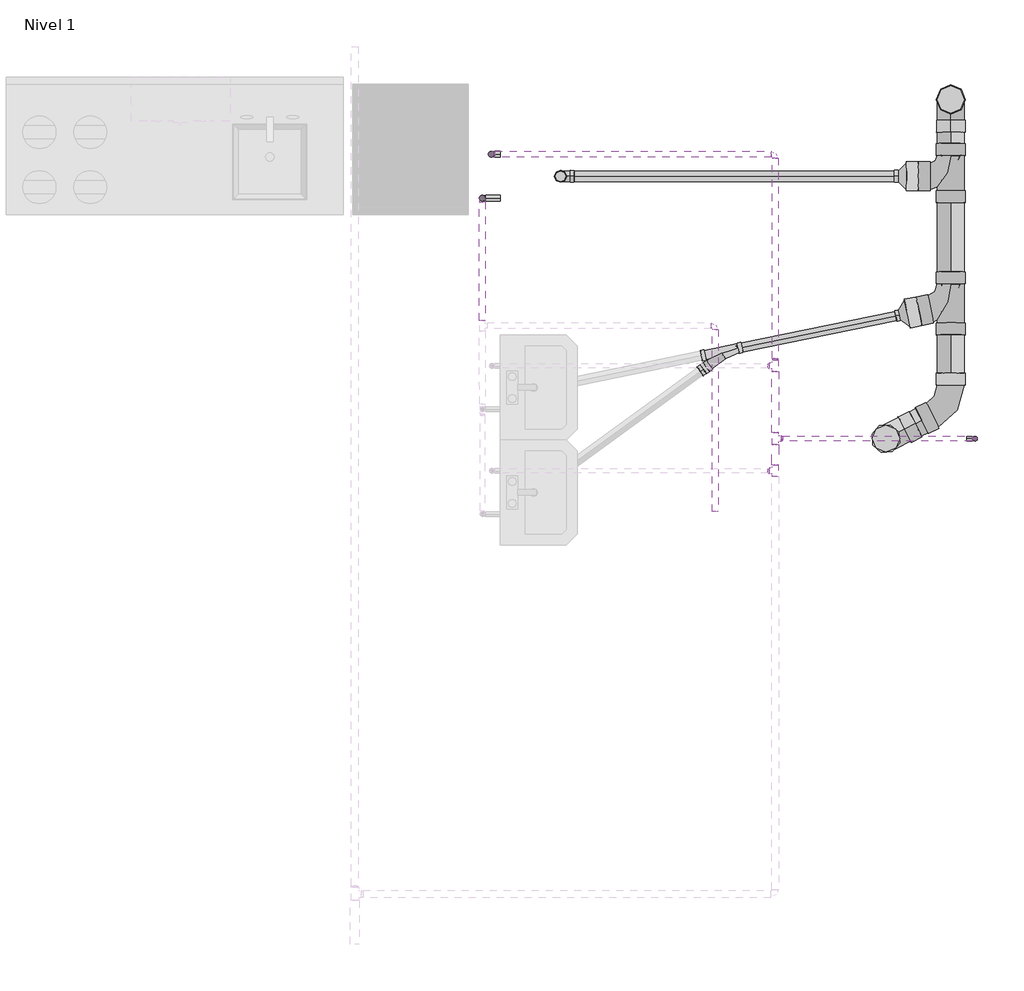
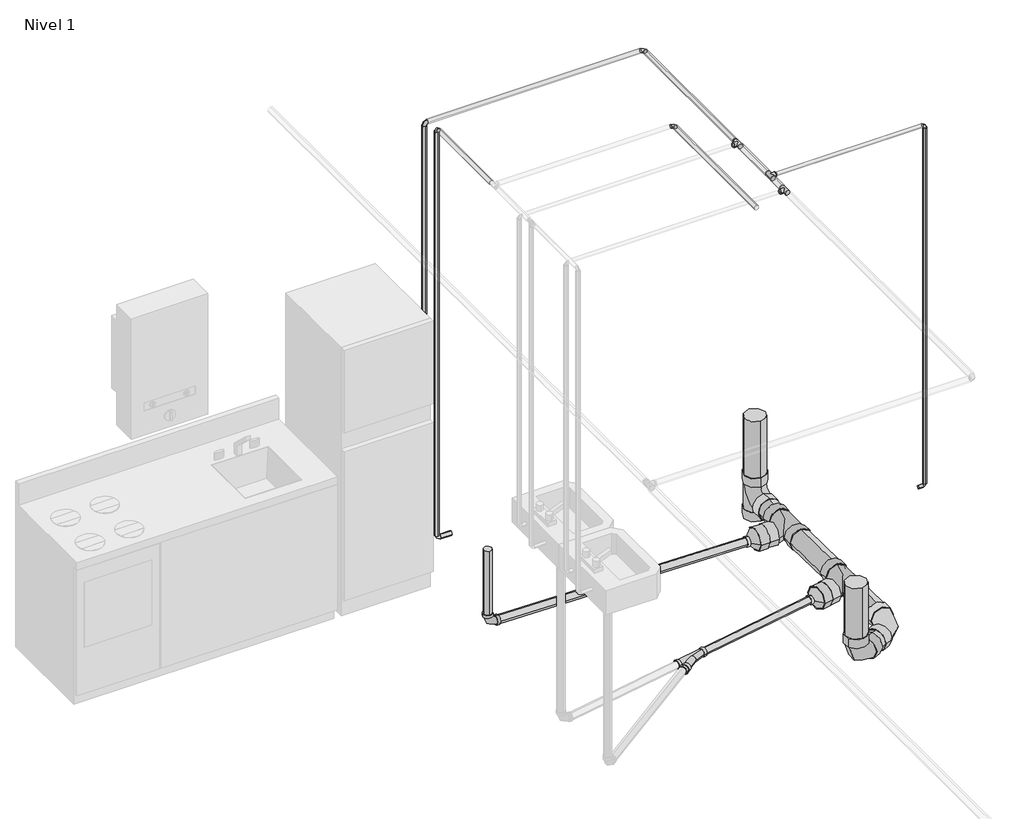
# One storey, part 2 of 2: 25 pipe fittings, 22 pipe segments.
"""IFC4 building model written with IfcOpenShell, lengths in millimetres."""

from ifc_helpers import new_model, si_unit, point, frame, frame_2d, origin, place, context, project, spatial, circle_curve, trimmed, segment, composite_curve, outline, extrude, transform, mapped, element, save
from components import pipe_fitting_d345b28c, pipe_fitting_a088f956, pipe_fitting_738589b0, pipe_fitting_19d9bb8b, pipe_fitting_0acd84b5, m_codo_pvc_serie_40_dwv_0d02a629, m_codo_pvc_serie_40_dwv_58af3277, m_codo_pvc_serie_40_dwv_8a6eaf4a, m_reductor_pvc_serie_40_dwv_9124daea, m_reductor_pvc_serie_40_dwv_3984a2b7, m_reductor_pvc_serie_40_dwv_3976a373, m_sanitario_con_te_pvc_serie_40_dwv_f73dd6a0, m_sanitario_con_te_pvc_serie_40_dwv_3fb9c0d5, m_sanitario_con_te_pvc_serie_40_dwv_6e09cb4e, m_sanitario_con_te_pvc_serie_40_dwv_3bcfd35b

model = new_model("IFC4")

# Units and contexts
model_context = context("Model", 3, world=origin())
ifc_project = project(units=[si_unit("LENGTHUNIT", "METRE", prefix="MILLI")], contexts=[model_context])

# Site, building, storey
site = spatial("IfcSite", under=ifc_project)
building = spatial("IfcBuilding", under=site)
storey = spatial("IfcBuildingStorey", under=building, Name="Nivel 1", Elevation=200.0)

# Pipe fittings
placement = place(None, origin())
pipe_fitting_shape = pipe_fitting_d345b28c(model_context)
element("IfcPipeFitting", 1, ObjectType="M_Te - Genérica : Estándar", at=placement, inside=storey, context=model_context, shape_type="MappedRepresentation", body=[
    mapped(pipe_fitting_shape, transform((10500.0001888, 11086.9444303, 2950.0), x_axis=(0.0, -1.0, 0.0), y_axis=(1.0, 0.0, 0.0), z_axis=(0.0, 0.0, 1.0))),
])
element("IfcPipeFitting", 2, ObjectType="M_Te - Genérica : Estándar", at=placement, inside=storey, context=model_context, shape_type="MappedRepresentation", body=[
    mapped(pipe_fitting_shape, transform((10500.0001888, 11235.8120225, 2950.0), x_axis=(0.0, -1.0, 0.0), y_axis=(-1.0, 0.0, 0.0), z_axis=(0.0, 0.0, -1.0))),
])
element("IfcPipeFitting", 3, ObjectType="M_Te - Genérica : Estándar", at=placement, inside=storey, context=model_context, shape_type="MappedRepresentation", body=[
    mapped(pipe_fitting_shape, transform((10500.0001888, 11571.9444303, 2950.0), x_axis=(0.0, 1.0, 0.0), y_axis=(1.0, 0.0, 0.0), z_axis=(0.0, 0.0, -1.0))),
])
pipe_fitting_2_shape = pipe_fitting_a088f956(model_context)
element("IfcPipeFitting", 4, ObjectType="M_Codo - Genérico : Estándar", at=placement, inside=storey, context=model_context, shape_type="MappedRepresentation", body=[
    mapped(pipe_fitting_2_shape, transform((11423.8124898, 11235.8120225, 669.9432082), x_axis=(1.0, 0.0, 0.0), y_axis=(0.0, 0.0, 1.0), z_axis=(0.0, -1.0, 0.0))),
])
element("IfcPipeFitting", 5, ObjectType="M_Codo - Genérico : Estándar", at=placement, inside=storey, context=model_context, shape_type="MappedRepresentation", body=[
    mapped(pipe_fitting_2_shape, transform((11423.8124898, 11235.8120225, 2950.0), x_axis=(0.0, 0.0, 1.0), y_axis=(-1.0, 0.0, 0.0), z_axis=(0.0, -1.0, 0.0))),
])
pipe_fitting_3_shape = pipe_fitting_738589b0(model_context)
element("IfcPipeFitting", 6, ObjectType="M_Codo - Genérico : Estándar", at=placement, inside=storey, context=model_context, shape_type="MappedRepresentation", body=[
    mapped(pipe_fitting_3_shape, transform((9187.1375102, 12550.6177396, 460.35), x_axis=(-1.0, 0.0, 0.0), y_axis=(0.0, 0.0, 1.0), z_axis=(0.0, 1.0, 0.0))),
])
element("IfcPipeFitting", 7, ObjectType="M_Codo - Genérico : Estándar", at=placement, inside=storey, context=model_context, shape_type="MappedRepresentation", body=[
    mapped(pipe_fitting_3_shape, transform((9187.1375102, 12550.6177396, 2950.0), x_axis=(0.0, 0.0, 1.0), y_axis=(1.0, 0.0, 0.0), z_axis=(0.0, 1.0, 0.0))),
])
element("IfcPipeFitting", 8, ObjectType="M_Codo - Genérico : Estándar", at=placement, inside=storey, context=model_context, shape_type="MappedRepresentation", body=[
    mapped(pipe_fitting_3_shape, transform((10500.0001888, 12550.6177396, 2950.0), x_axis=(0.0, 1.0, 0.0), y_axis=(-1.0, 0.0, 0.0), z_axis=(0.0, 0.0, 1.0))),
])
element("IfcPipeFitting", 9, ObjectType="M_Codo - Genérico : Estándar", at=placement, inside=storey, context=model_context, shape_type="MappedRepresentation", body=[
    mapped(pipe_fitting_3_shape, transform((9145.3757675, 12347.4177396, 460.35), x_axis=(-1.0, 0.0, 0.0), y_axis=(0.0, 0.0, 1.0), z_axis=(0.0, 1.0, 0.0))),
])
element("IfcPipeFitting", 10, ObjectType="M_Codo - Genérico : Estándar", at=placement, inside=storey, context=model_context, shape_type="MappedRepresentation", body=[
    mapped(pipe_fitting_3_shape, transform((9145.3757675, 12347.4177396, 3050.0), x_axis=(0.0, 0.0, 1.0), y_axis=(0.0, -1.0, 0.0), z_axis=(1.0, 0.0, 0.0))),
])
element("IfcPipeFitting", 11, ObjectType="M_Codo - Genérico : Estándar", at=placement, inside=storey, context=model_context, shape_type="MappedRepresentation", body=[
    mapped(pipe_fitting_3_shape, transform((10222.3689852, 11757.7431378, 3050.0), x_axis=(0.0, 1.0, 0.0), y_axis=(-1.0, 0.0, 0.0), z_axis=(0.0, 0.0, 1.0))),
])
pipe_fitting_4_shape = pipe_fitting_19d9bb8b(model_context)
element("IfcPipeFitting", 12, ObjectType="M_Transición - Genérica : Estándar", at=placement, inside=storey, context=model_context, shape_type="MappedRepresentation", body=[
    mapped(pipe_fitting_4_shape, transform((10473.0126888, 11086.9444303, 2950.0), x_axis=(-1.0, 0.0, 0.0), y_axis=(0.0, -1.0, 0.0), z_axis=(0.0, 0.0, 1.0))),
])
element("IfcPipeFitting", 13, ObjectType="M_Transición - Genérica : Estándar", at=placement, inside=storey, context=model_context, shape_type="MappedRepresentation", body=[
    mapped(pipe_fitting_4_shape, transform((10526.9876888, 11235.8120225, 2950.0), x_axis=(1.0, 0.0, 0.0), y_axis=(0.0, 1.0, 0.0), z_axis=(0.0, 0.0, 1.0))),
])
element("IfcPipeFitting", 14, ObjectType="M_Transición - Genérica : Estándar", at=placement, inside=storey, context=model_context, shape_type="MappedRepresentation", body=[
    mapped(pipe_fitting_4_shape, transform((10473.0126888, 11571.9444303, 2950.0), x_axis=(-1.0, 0.0, 0.0), y_axis=(0.0, -1.0, 0.0), z_axis=(0.0, 0.0, 1.0))),
])
pipe_fitting_5_shape = pipe_fitting_0acd84b5(model_context)
element("IfcPipeFitting", 15, ObjectType="M_Transición - Genérica : Estándar", at=placement, inside=storey, context=model_context, shape_type="MappedRepresentation", body=[
    mapped(pipe_fitting_5_shape, transform((10500.0001888, 11606.0756803, 2950.0), x_axis=(0.0, -1.0, 0.0), y_axis=(1.0, 0.0, 0.0), z_axis=(0.0, 0.0, 1.0))),
])
m_codo_pvc_serie_40_dwv_shape = m_codo_pvc_serie_40_dwv_0d02a629(model_context)
element("IfcPipeFitting", 16, ObjectType="M_Codo - PVC - Serie 40 - DWV : Estándar", at=placement, inside=storey, context=model_context, shape_type="MappedRepresentation", body=[
    mapped(m_codo_pvc_serie_40_dwv_shape, transform((9507.8125, 12449.0177396, -265.0550886), x_axis=(0.0, 0.0, -1.0), y_axis=(1.0, 0.0, 0.0), z_axis=(0.0, -1.0, 0.0))),
])
m_codo_pvc_serie_40_dwv_2_shape = m_codo_pvc_serie_40_dwv_58af3277(model_context)
element("IfcPipeFitting", 17, ObjectType="M_Codo - PVC - Serie 40 - DWV : Estándar", at=placement, inside=storey, context=model_context, shape_type="MappedRepresentation", body=[
    mapped(m_codo_pvc_serie_40_dwv_2_shape, transform((11311.4630594, 11386.9426985, -279.886599), x_axis=(0.8926934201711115, 0.4498638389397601, -0.0268511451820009), y_axis=(-0.4502208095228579, 0.8928733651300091, -0.008853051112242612), z_axis=(0.0199920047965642, 0.01999200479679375, 0.9996002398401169))),
])
m_codo_pvc_serie_40_dwv_3_shape = m_codo_pvc_serie_40_dwv_8a6eaf4a(model_context)
element("IfcPipeFitting", 18, ObjectType="M_Codo - PVC - Serie 40 - DWV : Estándar", at=placement, inside=storey, context=model_context, shape_type="MappedRepresentation", body=[
    mapped(m_codo_pvc_serie_40_dwv_3_shape, transform((11011.459375, 11235.7588698, -270.8628487), x_axis=(0.0, 0.0, -1.0), y_axis=(0.8930154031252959, 0.45002609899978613, 0.0), z_axis=(0.45002609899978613, -0.8930154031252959, 0.0))),
])
m_reductor_pvc_serie_40_dwv_shape = m_reductor_pvc_serie_40_dwv_9124daea(model_context)
element("IfcPipeFitting", 19, ObjectType="M_Reductor - PVC - Serie 40 - DWV : Estándar", at=placement, inside=storey, context=model_context, shape_type="MappedRepresentation", body=[
    mapped(m_reductor_pvc_serie_40_dwv_shape, transform((11160.2792307, 12449.0177396, -298.1044232), x_axis=(-0.9998000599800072, 0.0, 0.019996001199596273), y_axis=(0.0003997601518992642, -0.9998001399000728, 0.019988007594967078), z_axis=(0.01999200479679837, 0.019992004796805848, 0.999600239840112))),
])
m_reductor_pvc_serie_40_dwv_2_shape = m_reductor_pvc_serie_40_dwv_3984a2b7(model_context)
element("IfcPipeFitting", 20, ObjectType="M_Reductor - PVC - Serie 40 - DWV : Estándar", at=placement, inside=storey, context=model_context, shape_type="MappedRepresentation", body=[
    mapped(m_reductor_pvc_serie_40_dwv_2_shape, transform((11163.3554544, 11825.1737231, -286.2960454), x_axis=(-0.9794565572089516, -0.20070156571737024, 0.01958913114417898), y_axis=(0.2010277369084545, -0.9794483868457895, 0.01639226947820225), z_axis=(0.01589658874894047, 0.019993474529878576, 0.9996737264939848))),
])
m_reductor_pvc_serie_40_dwv_3_shape = m_reductor_pvc_serie_40_dwv_3976a373(model_context)
element("IfcPipeFitting", 21, ObjectType="M_Reductor - PVC - Serie 40 - DWV : Estándar", at=placement, inside=storey, context=model_context, shape_type="MappedRepresentation", body=[
    mapped(m_reductor_pvc_serie_40_dwv_3_shape, transform((10181.3244736, 11567.3674739, -258.9838619), x_axis=(-0.8089253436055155, -0.5876887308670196, 0.01617850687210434), y_axis=(0.5875712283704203, -0.8090871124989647, -0.011751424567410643), z_axis=(0.019996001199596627, 0.0, 0.9998000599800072))),
])
m_sanitario_con_te_pvc_serie_40_dwv_shape = m_sanitario_con_te_pvc_serie_40_dwv_f73dd6a0(model_context)
element("IfcPipeFitting", 22, ObjectType="M_Sanitario con te - PVC - Serie 40 - DWV : Estándar", at=placement, inside=storey, context=model_context, shape_type="MappedRepresentation", body=[
    mapped(m_sanitario_con_te_pvc_serie_40_dwv_shape, transform((11311.4630594, 12449.0177396, -301.1280998), x_axis=(0.0, -0.999800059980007, 0.019996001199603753), y_axis=(0.9998001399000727, -0.0003997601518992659, -0.019988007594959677), z_axis=(0.01999200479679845, 0.019992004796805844, 0.9996002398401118))),
])
m_sanitario_con_te_pvc_serie_40_dwv_2_shape = m_sanitario_con_te_pvc_serie_40_dwv_3fb9c0d5(model_context)
element("IfcPipeFitting", 23, ObjectType="M_Sanitario con te - PVC - Serie 40 - DWV : Estándar", at=placement, inside=storey, context=model_context, shape_type="MappedRepresentation", body=[
    mapped(m_sanitario_con_te_pvc_serie_40_dwv_2_shape, transform((11311.4630594, 11855.5226222, -289.2581975), x_axis=(0.0, -0.9998000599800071, 0.019996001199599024), y_axis=(0.9998736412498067, -0.0003178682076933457, -0.01589341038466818), z_axis=(0.01589658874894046, 0.01999347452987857, 0.9996737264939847))),
])
m_sanitario_con_te_pvc_serie_40_dwv_3_shape = m_sanitario_con_te_pvc_serie_40_dwv_6e09cb4e(model_context)
element("IfcPipeFitting", 24, ObjectType="M_Sanitario con te - PVC - Serie 40 - DWV : Estándar", at=placement, inside=storey, context=model_context, shape_type="MappedRepresentation", body=[
    mapped(m_sanitario_con_te_pvc_serie_40_dwv_3_shape, transform((10289.7941155, 11646.171268, -261.1532548), x_axis=(-0.9794565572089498, -0.20070156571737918, 0.01958913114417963), y_axis=(-0.20066143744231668, 0.9796524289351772, 0.004013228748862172), z_axis=(-0.019996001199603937, 0.0, -0.9998000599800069))),
])
m_sanitario_con_te_pvc_serie_40_dwv_4_shape = m_sanitario_con_te_pvc_serie_40_dwv_3bcfd35b(model_context)
element("IfcPipeFitting", 25, ObjectType="M_Sanitario con te - PVC - Serie 40 - DWV : Estándar", at=placement, inside=storey, context=model_context, shape_type="MappedRepresentation", body=[
    mapped(m_sanitario_con_te_pvc_serie_40_dwv_4_shape, transform((11311.4630594, 12804.0179829, -308.2281047), x_axis=(0.0, 0.0, -1.0), y_axis=(0.0, 1.0, 0.0), z_axis=(1.0, 0.0, 0.0))),
])

# Pipe segments
element("IfcPipeSegment", 26, ObjectType="PEX - Polietileno Reticulado", at=placement, inside=storey, context=model_context, shape_type="SweptSolid", body=[
    extrude(outline(composite_curve([segment(trimmed(circle_curve(frame_2d((11235.8120225, 669.9432082)), 10.668), [point((11225.1440225, 669.9432082))], [point((11235.8120225, 680.6112082))], False, "CARTESIAN"), True, "CONTINUOUS"), segment(trimmed(circle_curve(frame_2d((11235.8120225, 669.9432082)), 10.668), [point((11235.8120225, 680.6112082))], [point((11246.4800225, 669.9432082))], False, "CARTESIAN"), True, "CONTINUOUS"), segment(trimmed(circle_curve(frame_2d((11235.8120225, 669.9432082)), 10.668), [point((11246.4800225, 669.9432082))], [point((11235.8120225, 659.2752082))], False, "CARTESIAN"), True, "CONTINUOUS"), segment(trimmed(circle_curve(frame_2d((11235.8120225, 669.9432082)), 10.668), [point((11235.8120225, 659.2752082))], [point((11225.1440225, 669.9432082))], False, "CARTESIAN"), True, "CONTINUOUS")], self_intersect=False)), frame((11384.125, 0.0, 0.0), z_axis=(1.0, 0.0, 0.0), x_axis=(0.0, 1.0, 0.0)), (0.0, 0.0, 1.0), 25.3999898),
])
element("IfcPipeSegment", 27, ObjectType="PEX - Polietileno Reticulado", at=placement, inside=storey, context=model_context, shape_type="SweptSolid", body=[
    extrude(outline(composite_curve([segment(trimmed(circle_curve(frame_2d((11423.8124898, 11235.8120225)), 10.668), [point((11413.1444898, 11235.8120225))], [point((11423.8124898, 11246.4800225))], False, "CARTESIAN"), True, "CONTINUOUS"), segment(trimmed(circle_curve(frame_2d((11423.8124898, 11235.8120225)), 10.668), [point((11423.8124898, 11246.4800225))], [point((11434.4804898, 11235.8120225))], False, "CARTESIAN"), True, "CONTINUOUS"), segment(trimmed(circle_curve(frame_2d((11423.8124898, 11235.8120225)), 10.668), [point((11434.4804898, 11235.8120225))], [point((11423.8124898, 11225.1440225))], False, "CARTESIAN"), True, "CONTINUOUS"), segment(trimmed(circle_curve(frame_2d((11423.8124898, 11235.8120225)), 10.668), [point((11423.8124898, 11225.1440225))], [point((11413.1444898, 11235.8120225))], False, "CARTESIAN"), True, "CONTINUOUS")], self_intersect=False)), frame((0.0, 0.0, 684.2307082), z_axis=(0.0, 0.0, 1.0), x_axis=(1.0, 0.0, 0.0)), (0.0, 0.0, 1.0), 2251.4817918),
])
element("IfcPipeSegment", 28, ObjectType="PEX - Polietileno Reticulado", at=placement, inside=storey, context=model_context, shape_type="SweptSolid", body=[
    extrude(outline(composite_curve([segment(trimmed(circle_curve(frame_2d((11235.8120225, 2950.0)), 10.668), [point((11246.4800225, 2950.0))], [point((11235.8120225, 2939.332))], False, "CARTESIAN"), True, "CONTINUOUS"), segment(trimmed(circle_curve(frame_2d((11235.8120225, 2950.0)), 10.668), [point((11235.8120225, 2939.332))], [point((11225.1440225, 2950.0))], False, "CARTESIAN"), True, "CONTINUOUS"), segment(trimmed(circle_curve(frame_2d((11235.8120225, 2950.0)), 10.668), [point((11225.1440225, 2950.0))], [point((11235.8120225, 2960.668))], False, "CARTESIAN"), True, "CONTINUOUS"), segment(trimmed(circle_curve(frame_2d((11235.8120225, 2950.0)), 10.668), [point((11235.8120225, 2960.668))], [point((11246.4800225, 2950.0))], False, "CARTESIAN"), True, "CONTINUOUS")], self_intersect=False)), frame((10534.1314388, 0.0, 0.0), z_axis=(1.0, 0.0, 0.0), x_axis=(0.0, 1.0, 0.0)), (0.0, 0.0, 1.0), 875.393551),
])
element("IfcPipeSegment", 29, ObjectType="PEX - Polietileno Reticulado", at=placement, inside=storey, context=model_context, shape_type="SweptSolid", body=[
    extrude(outline(composite_curve([segment(trimmed(circle_curve(frame_2d((12550.6177396, 460.35)), 13.335), [point((12563.9527396, 460.35))], [point((12550.6177396, 447.015))], False, "CARTESIAN"), True, "CONTINUOUS"), segment(trimmed(circle_curve(frame_2d((12550.6177396, 460.35)), 13.335), [point((12550.6177396, 447.015))], [point((12537.2827396, 460.35))], False, "CARTESIAN"), True, "CONTINUOUS"), segment(trimmed(circle_curve(frame_2d((12550.6177396, 460.35)), 13.335), [point((12537.2827396, 460.35))], [point((12550.6177396, 473.685))], False, "CARTESIAN"), True, "CONTINUOUS"), segment(trimmed(circle_curve(frame_2d((12550.6177396, 460.35)), 13.335), [point((12550.6177396, 473.685))], [point((12563.9527396, 460.35))], False, "CARTESIAN"), True, "CONTINUOUS")], self_intersect=False)), frame((9204.6000102, 0.0, 0.0), z_axis=(1.0, 0.0, 0.0), x_axis=(0.0, 1.0, 0.0)), (0.0, 0.0, 1.0), 25.3999898),
])
element("IfcPipeSegment", 30, ObjectType="PEX - Polietileno Reticulado", at=placement, inside=storey, context=model_context, shape_type="SweptSolid", body=[
    extrude(outline(composite_curve([segment(trimmed(circle_curve(frame_2d((9187.1375102, 12550.6177396)), 13.335), [point((9173.8025102, 12550.6177396))], [point((9187.1375102, 12563.9527396))], False, "CARTESIAN"), True, "CONTINUOUS"), segment(trimmed(circle_curve(frame_2d((9187.1375102, 12550.6177396)), 13.335), [point((9187.1375102, 12563.9527396))], [point((9200.4725102, 12550.6177396))], False, "CARTESIAN"), True, "CONTINUOUS"), segment(trimmed(circle_curve(frame_2d((9187.1375102, 12550.6177396)), 13.335), [point((9200.4725102, 12550.6177396))], [point((9187.1375102, 12537.2827396))], False, "CARTESIAN"), True, "CONTINUOUS"), segment(trimmed(circle_curve(frame_2d((9187.1375102, 12550.6177396)), 13.335), [point((9187.1375102, 12537.2827396))], [point((9173.8025102, 12550.6177396))], False, "CARTESIAN"), True, "CONTINUOUS")], self_intersect=False)), frame((0.0, 0.0, 477.8125), z_axis=(0.0, 0.0, 1.0), x_axis=(1.0, 0.0, 0.0)), (0.0, 0.0, 1.0), 2454.725),
])
element("IfcPipeSegment", 31, ObjectType="PEX - Polietileno Reticulado", at=placement, inside=storey, context=model_context, shape_type="SweptSolid", body=[
    extrude(outline(composite_curve([segment(trimmed(circle_curve(frame_2d((12550.6177396, 2950.0)), 13.335), [point((12537.2827396, 2950.0))], [point((12550.6177396, 2963.335))], False, "CARTESIAN"), True, "CONTINUOUS"), segment(trimmed(circle_curve(frame_2d((12550.6177396, 2950.0)), 13.335), [point((12550.6177396, 2963.335))], [point((12563.9527396, 2950.0))], False, "CARTESIAN"), True, "CONTINUOUS"), segment(trimmed(circle_curve(frame_2d((12550.6177396, 2950.0)), 13.335), [point((12563.9527396, 2950.0))], [point((12550.6177396, 2936.665))], False, "CARTESIAN"), True, "CONTINUOUS"), segment(trimmed(circle_curve(frame_2d((12550.6177396, 2950.0)), 13.335), [point((12550.6177396, 2936.665))], [point((12537.2827396, 2950.0))], False, "CARTESIAN"), True, "CONTINUOUS")], self_intersect=False)), frame((9204.6000102, 0.0, 0.0), z_axis=(1.0, 0.0, 0.0), x_axis=(0.0, 1.0, 0.0)), (0.0, 0.0, 1.0), 1277.9376786),
])
element("IfcPipeSegment", 32, ObjectType="PEX - Polietileno Reticulado", at=placement, inside=storey, context=model_context, shape_type="SweptSolid", body=[
    extrude(outline(composite_curve([segment(trimmed(circle_curve(frame_2d((2950.0, 10500.0001888)), 13.335), [point((2950.0, 10486.6651888))], [point((2936.665, 10500.0001888))], False, "CARTESIAN"), True, "CONTINUOUS"), segment(trimmed(circle_curve(frame_2d((2950.0, 10500.0001888)), 13.335), [point((2936.665, 10500.0001888))], [point((2950.0, 10513.3351888))], False, "CARTESIAN"), True, "CONTINUOUS"), segment(trimmed(circle_curve(frame_2d((2950.0, 10500.0001888)), 13.335), [point((2950.0, 10513.3351888))], [point((2963.335, 10500.0001888))], False, "CARTESIAN"), True, "CONTINUOUS"), segment(trimmed(circle_curve(frame_2d((2950.0, 10500.0001888)), 13.335), [point((2963.335, 10500.0001888))], [point((2950.0, 10486.6651888))], False, "CARTESIAN"), True, "CONTINUOUS")], self_intersect=False)), frame((0.0, 11606.0756803, 0.0), z_axis=(0.0, 1.0, 0.0), x_axis=(0.0, 0.0, 1.0)), (0.0, 0.0, 1.0), 927.0795592),
])
element("IfcPipeSegment", 33, ObjectType="PEX - Polietileno Reticulado", at=placement, inside=storey, context=model_context, shape_type="SweptSolid", body=[
    extrude(outline(composite_curve([segment(trimmed(circle_curve(frame_2d((2950.0, 10500.0001888)), 16.7005), [point((2950.0, 10516.7006888))], [point((2966.7005, 10500.0001888))], False, "CARTESIAN"), True, "CONTINUOUS"), segment(trimmed(circle_curve(frame_2d((2950.0, 10500.0001888)), 16.7005), [point((2966.7005, 10500.0001888))], [point((2950.0, 10483.2996888))], False, "CARTESIAN"), True, "CONTINUOUS"), segment(trimmed(circle_curve(frame_2d((2950.0, 10500.0001888)), 16.7005), [point((2950.0, 10483.2996888))], [point((2933.2995, 10500.0001888))], False, "CARTESIAN"), True, "CONTINUOUS"), segment(trimmed(circle_curve(frame_2d((2950.0, 10500.0001888)), 16.7005), [point((2933.2995, 10500.0001888))], [point((2950.0, 10516.7006888))], False, "CARTESIAN"), True, "CONTINUOUS")], self_intersect=False)), frame((0.0, 11113.9319303, 0.0), z_axis=(0.0, 1.0, 0.0), x_axis=(0.0, 0.0, 1.0)), (0.0, 0.0, 1.0), 94.8925922),
])
element("IfcPipeSegment", 34, ObjectType="PEX - Polietileno Reticulado", at=placement, inside=storey, context=model_context, shape_type="SweptSolid", body=[
    extrude(outline(composite_curve([segment(trimmed(circle_curve(frame_2d((2950.0, 10500.0001888)), 16.7005), [point((2950.0, 10516.7006888))], [point((2966.7005, 10500.0001888))], False, "CARTESIAN"), True, "CONTINUOUS"), segment(trimmed(circle_curve(frame_2d((2950.0, 10500.0001888)), 16.7005), [point((2966.7005, 10500.0001888))], [point((2950.0, 10483.2996888))], False, "CARTESIAN"), True, "CONTINUOUS"), segment(trimmed(circle_curve(frame_2d((2950.0, 10500.0001888)), 16.7005), [point((2950.0, 10483.2996888))], [point((2933.2995, 10500.0001888))], False, "CARTESIAN"), True, "CONTINUOUS"), segment(trimmed(circle_curve(frame_2d((2950.0, 10500.0001888)), 16.7005), [point((2933.2995, 10500.0001888))], [point((2950.0, 10516.7006888))], False, "CARTESIAN"), True, "CONTINUOUS")], self_intersect=False)), frame((0.0, 11262.7995225, 0.0), z_axis=(0.0, 1.0, 0.0), x_axis=(0.0, 0.0, 1.0)), (0.0, 0.0, 1.0), 282.1574078),
])
element("IfcPipeSegment", 35, ObjectType="PEX - Polietileno Reticulado", at=placement, inside=storey, context=model_context, shape_type="SweptSolid", body=[
    extrude(outline(composite_curve([segment(trimmed(circle_curve(frame_2d((12347.4177396, 460.35)), 13.335), [point((12360.7527396, 460.35))], [point((12347.4177396, 447.015))], False, "CARTESIAN"), True, "CONTINUOUS"), segment(trimmed(circle_curve(frame_2d((12347.4177396, 460.35)), 13.335), [point((12347.4177396, 447.015))], [point((12334.0827396, 460.35))], False, "CARTESIAN"), True, "CONTINUOUS"), segment(trimmed(circle_curve(frame_2d((12347.4177396, 460.35)), 13.335), [point((12334.0827396, 460.35))], [point((12347.4177396, 473.685))], False, "CARTESIAN"), True, "CONTINUOUS"), segment(trimmed(circle_curve(frame_2d((12347.4177396, 460.35)), 13.335), [point((12347.4177396, 473.685))], [point((12360.7527396, 460.35))], False, "CARTESIAN"), True, "CONTINUOUS")], self_intersect=False)), frame((9162.8382675, 0.0, 0.0), z_axis=(1.0, 0.0, 0.0), x_axis=(0.0, 1.0, 0.0)), (0.0, 0.0, 1.0), 67.1617325),
])
element("IfcPipeSegment", 36, ObjectType="PEX - Polietileno Reticulado", at=placement, inside=storey, context=model_context, shape_type="SweptSolid", body=[
    extrude(outline(composite_curve([segment(trimmed(circle_curve(frame_2d((9145.3757675, 12347.4177396)), 13.335), [point((9132.0407675, 12347.4177396))], [point((9145.3757675, 12360.7527396))], False, "CARTESIAN"), True, "CONTINUOUS"), segment(trimmed(circle_curve(frame_2d((9145.3757675, 12347.4177396)), 13.335), [point((9145.3757675, 12360.7527396))], [point((9158.7107675, 12347.4177396))], False, "CARTESIAN"), True, "CONTINUOUS"), segment(trimmed(circle_curve(frame_2d((9145.3757675, 12347.4177396)), 13.335), [point((9158.7107675, 12347.4177396))], [point((9145.3757675, 12334.0827396))], False, "CARTESIAN"), True, "CONTINUOUS"), segment(trimmed(circle_curve(frame_2d((9145.3757675, 12347.4177396)), 13.335), [point((9145.3757675, 12334.0827396))], [point((9132.0407675, 12347.4177396))], False, "CARTESIAN"), True, "CONTINUOUS")], self_intersect=False)), frame((0.0, 0.0, 477.8125), z_axis=(0.0, 0.0, 1.0), x_axis=(1.0, 0.0, 0.0)), (0.0, 0.0, 1.0), 2554.725),
])
element("IfcPipeSegment", 37, ObjectType="PEX - Polietileno Reticulado", at=placement, inside=storey, context=model_context, shape_type="SweptSolid", body=[
    extrude(outline(composite_curve([segment(trimmed(circle_curve(frame_2d((3050.0, 9145.3757675)), 13.335), [point((3050.0, 9132.0407675))], [point((3036.665, 9145.3757675))], False, "CARTESIAN"), True, "CONTINUOUS"), segment(trimmed(circle_curve(frame_2d((3050.0, 9145.3757675)), 13.335), [point((3036.665, 9145.3757675))], [point((3050.0, 9158.7107675))], False, "CARTESIAN"), True, "CONTINUOUS"), segment(trimmed(circle_curve(frame_2d((3050.0, 9145.3757675)), 13.335), [point((3050.0, 9158.7107675))], [point((3063.335, 9145.3757675))], False, "CARTESIAN"), True, "CONTINUOUS"), segment(trimmed(circle_curve(frame_2d((3050.0, 9145.3757675)), 13.335), [point((3063.335, 9145.3757675))], [point((3050.0, 9132.0407675))], False, "CARTESIAN"), True, "CONTINUOUS")], self_intersect=False)), frame((0.0, 11781.4110786, 0.0), z_axis=(0.0, 1.0, 0.0), x_axis=(0.0, 0.0, 1.0)), (0.0, 0.0, 1.0), 548.544161),
])
element("IfcPipeSegment", 38, ObjectType="PEX - Polietileno Reticulado", at=placement, inside=storey, context=model_context, shape_type="SweptSolid", body=[
    extrude(outline(composite_curve([segment(trimmed(circle_curve(frame_2d((3050.0, 10222.3689852)), 13.335), [point((3050.0, 10209.0339852))], [point((3036.665, 10222.3689852))], False, "CARTESIAN"), True, "CONTINUOUS"), segment(trimmed(circle_curve(frame_2d((3050.0, 10222.3689852)), 13.335), [point((3036.665, 10222.3689852))], [point((3050.0, 10235.7039852))], False, "CARTESIAN"), True, "CONTINUOUS"), segment(trimmed(circle_curve(frame_2d((3050.0, 10222.3689852)), 13.335), [point((3050.0, 10235.7039852))], [point((3063.335, 10222.3689852))], False, "CARTESIAN"), True, "CONTINUOUS"), segment(trimmed(circle_curve(frame_2d((3050.0, 10222.3689852)), 13.335), [point((3063.335, 10222.3689852))], [point((3050.0, 10209.0339852))], False, "CARTESIAN"), True, "CONTINUOUS")], self_intersect=False)), frame((0.0, 10897.7431378, 0.0), z_axis=(0.0, 1.0, 0.0), x_axis=(0.0, 0.0, 1.0)), (0.0, 0.0, 1.0), 842.5375),
])
element("IfcPipeSegment", 39, ObjectType="PVC", at=placement, inside=storey, context=model_context, shape_type="SweptSolid", body=[
    extrude(outline(composite_curve([segment(trimmed(circle_curve(frame_2d((0.0, 62.865)), 62.865), [point((-62.865, 62.865))], [point((0.0, 125.7300001))], False, "CARTESIAN"), True, "CONTINUOUS"), segment(trimmed(circle_curve(frame_2d((0.0, 62.865)), 62.865), [point((0.0, 125.7300001))], [point((62.865, 62.865))], False, "CARTESIAN"), True, "CONTINUOUS"), segment(trimmed(circle_curve(frame_2d((0.0, 62.865)), 62.865), [point((62.865, 62.865))], [point((0.0, 0.0))], False, "CARTESIAN"), True, "CONTINUOUS"), segment(trimmed(circle_curve(frame_2d((0.0, 62.865)), 62.865), [point((0.0, 0.0))], [point((-62.865, 62.865))], False, "CARTESIAN"), True, "CONTINUOUS")], self_intersect=False)), frame((11311.4630594, 11713.9384095, -349.304085), z_axis=(0.0, -0.9998000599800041, 0.019996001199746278), x_axis=(1.0, 0.0, 0.0)), (0.0, 0.0, 1.0), 177.104341),
])
element("IfcPipeSegment", 40, ObjectType="PVC", at=placement, inside=storey, context=model_context, shape_type="SweptSolid", body=[
    extrude(outline(composite_curve([segment(trimmed(circle_curve(frame_2d((11311.4630594, 12804.0179829)), 62.865), [point((11374.3280594, 12804.0179829))], [point((11311.4630594, 12741.1529829))], False, "CARTESIAN"), True, "CONTINUOUS"), segment(trimmed(circle_curve(frame_2d((11311.4630594, 12804.0179829)), 62.865), [point((11311.4630594, 12741.1529829))], [point((11248.5980594, 12804.0179829))], False, "CARTESIAN"), True, "CONTINUOUS"), segment(trimmed(circle_curve(frame_2d((11311.4630594, 12804.0179829)), 62.865), [point((11248.5980594, 12804.0179829))], [point((11311.4630594, 12866.8829829))], False, "CARTESIAN"), True, "CONTINUOUS"), segment(trimmed(circle_curve(frame_2d((11311.4630594, 12804.0179829)), 62.865), [point((11311.4630594, 12866.8829829))], [point((11374.3280594, 12804.0179829))], False, "CARTESIAN"), True, "CONTINUOUS")], self_intersect=False)), frame((0.0, 0.0, -157.0140422), z_axis=(0.0, 0.0, 1.0), x_axis=(1.0, 0.0, 0.0)), (0.0, 0.0, 1.0), 357.0140422),
])
element("IfcPipeSegment", 41, ObjectType="PVC", at=placement, inside=storey, context=model_context, shape_type="SweptSolid", body=[
    extrude(outline(composite_curve([segment(trimmed(circle_curve(frame_2d((0.0, -62.865)), 62.865), [point((62.7759521, -66.2098555))], [point((-3.3448556, -125.6409521))], False, "CARTESIAN"), True, "CONTINUOUS"), segment(trimmed(circle_curve(frame_2d((0.0, -62.865)), 62.865), [point((-3.3448556, -125.6409521))], [point((-62.7759521, -59.5201444))], False, "CARTESIAN"), True, "CONTINUOUS"), segment(trimmed(circle_curve(frame_2d((0.0, -62.865)), 62.865), [point((-62.7759521, -59.5201444))], [point((3.3448555, -0.0890479))], False, "CARTESIAN"), True, "CONTINUOUS"), segment(trimmed(circle_curve(frame_2d((0.0, -62.865)), 62.865), [point((3.3448555, -0.0890479))], [point((62.7759521, -66.2098555))], False, "CARTESIAN"), True, "CONTINUOUS")], self_intersect=False)), frame((11176.4752608, 11322.6625342, -213.0730104), z_axis=(-0.8926934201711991, -0.4498638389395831, 0.026851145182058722), x_axis=(0.45066446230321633, -0.8911075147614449, 0.05318777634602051)), (0.0, 0.0, 1.0), 33.6376257),
])
element("IfcPipeSegment", 42, ObjectType="PVC", at=placement, inside=storey, context=model_context, shape_type="SweptSolid", body=[
    extrude(outline(composite_curve([segment(trimmed(circle_curve(frame_2d((11011.459375, 11235.7588698)), 62.865), [point((11074.324375, 11235.7588698))], [point((11011.459375, 11172.8938698))], False, "CARTESIAN"), True, "CONTINUOUS"), segment(trimmed(circle_curve(frame_2d((11011.459375, 11235.7588698)), 62.865), [point((11011.459375, 11172.8938698))], [point((10948.594375, 11235.7588698))], False, "CARTESIAN"), True, "CONTINUOUS"), segment(trimmed(circle_curve(frame_2d((11011.459375, 11235.7588698)), 62.865), [point((10948.594375, 11235.7588698))], [point((11011.459375, 11298.6238698))], False, "CARTESIAN"), True, "CONTINUOUS"), segment(trimmed(circle_curve(frame_2d((11011.459375, 11235.7588698)), 62.865), [point((11011.459375, 11298.6238698))], [point((11074.324375, 11235.7588698))], False, "CARTESIAN"), True, "CONTINUOUS")], self_intersect=False)), frame((0.0, 0.0, -119.6487862), z_axis=(0.0, 0.0, 1.0), x_axis=(1.0, 0.0, 0.0)), (0.0, 0.0, 1.0), 319.6487862),
])
element("IfcPipeSegment", 43, ObjectType="PVC", at=placement, inside=storey, context=model_context, shape_type="SweptSolid", body=[
    extrude(outline(composite_curve([segment(trimmed(circle_curve(frame_2d((0.0, 24.13)), 24.13), [point((0.0, 48.26))], [point((24.13, 24.13))], False, "CARTESIAN"), True, "CONTINUOUS"), segment(trimmed(circle_curve(frame_2d((0.0, 24.13)), 24.13), [point((24.13, 24.13))], [point((0.0, 0.0))], False, "CARTESIAN"), True, "CONTINUOUS"), segment(trimmed(circle_curve(frame_2d((0.0, 24.13)), 24.13), [point((0.0, 0.0))], [point((-24.1300001, 24.13))], False, "CARTESIAN"), True, "CONTINUOUS"), segment(trimmed(circle_curve(frame_2d((0.0, 24.13)), 24.13), [point((-24.1300001, 24.13))], [point((0.0, 48.26))], False, "CARTESIAN"), True, "CONTINUOUS")], self_intersect=False)), frame((11050.1051695, 12424.8877396, -295.900942), z_axis=(-0.9998000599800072, 0.0, 0.019996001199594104), x_axis=(0.019996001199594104, 0.0, 0.9998000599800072)), (0.0, 0.0, 1.0), 1480.7012972),
])
element("IfcPipeSegment", 44, ObjectType="PVC", at=placement, inside=storey, context=model_context, shape_type="SweptSolid", body=[
    extrude(outline(composite_curve([segment(trimmed(circle_curve(frame_2d((9507.8125, 12449.0177396)), 24.13), [point((9531.9425, 12449.0177396))], [point((9507.8125, 12424.8877396))], False, "CARTESIAN"), True, "CONTINUOUS"), segment(trimmed(circle_curve(frame_2d((9507.8125, 12449.0177396)), 24.13), [point((9507.8125, 12424.8877396))], [point((9483.6825, 12449.0177396))], False, "CARTESIAN"), True, "CONTINUOUS"), segment(trimmed(circle_curve(frame_2d((9507.8125, 12449.0177396)), 24.13), [point((9483.6825, 12449.0177396))], [point((9507.8125, 12473.1477396))], False, "CARTESIAN"), True, "CONTINUOUS"), segment(trimmed(circle_curve(frame_2d((9507.8125, 12449.0177396)), 24.13), [point((9507.8125, 12473.1477396))], [point((9531.9425, 12449.0177396))], False, "CARTESIAN"), True, "CONTINUOUS")], self_intersect=False)), frame((0.0, 0.0, -203.1552886), z_axis=(0.0, 0.0, 1.0), x_axis=(1.0, 0.0, 0.0)), (0.0, 0.0, 1.0), 403.1552886),
])
element("IfcPipeSegment", 45, ObjectType="PVC", at=placement, inside=storey, context=model_context, shape_type="SweptSolid", body=[
    extrude(outline(composite_curve([segment(trimmed(circle_curve(frame_2d((0.0, 62.865)), 62.865), [point((-62.865, 62.865))], [point((0.0, 125.7300001))], False, "CARTESIAN"), True, "CONTINUOUS"), segment(trimmed(circle_curve(frame_2d((0.0, 62.865)), 62.865), [point((0.0, 125.7300001))], [point((62.865, 62.865))], False, "CARTESIAN"), True, "CONTINUOUS"), segment(trimmed(circle_curve(frame_2d((0.0, 62.865)), 62.865), [point((62.865, 62.865))], [point((0.0, 0.0))], False, "CARTESIAN"), True, "CONTINUOUS"), segment(trimmed(circle_curve(frame_2d((0.0, 62.865)), 62.865), [point((0.0, 0.0))], [point((-62.865, 62.865))], False, "CARTESIAN"), True, "CONTINUOUS")], self_intersect=False)), frame((11311.4630594, 12651.5771055, -368.0568589), z_axis=(0.0, -0.9998000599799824, 0.01999600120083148), x_axis=(1.0, 0.0, 0.0)), (0.0, 0.0, 1.0), 52.6431113),
])
element("IfcPipeSegment", 46, ObjectType="PVC", at=placement, inside=storey, context=model_context, shape_type="SweptSolid", body=[
    extrude(outline(composite_curve([segment(trimmed(circle_curve(frame_2d((0.0, 62.865)), 62.865), [point((-62.865, 62.865))], [point((0.0, 125.7300001))], False, "CARTESIAN"), True, "CONTINUOUS"), segment(trimmed(circle_curve(frame_2d((0.0, 62.865)), 62.865), [point((0.0, 125.7300001))], [point((62.865, 62.865))], False, "CARTESIAN"), True, "CONTINUOUS"), segment(trimmed(circle_curve(frame_2d((0.0, 62.865)), 62.865), [point((62.865, 62.865))], [point((0.0, 0.0))], False, "CARTESIAN"), True, "CONTINUOUS"), segment(trimmed(circle_curve(frame_2d((0.0, 62.865)), 62.865), [point((0.0, 0.0))], [point((-62.865, 62.865))], False, "CARTESIAN"), True, "CONTINUOUS")], self_intersect=False)), frame((11311.4630594, 12325.3595945, -361.5325087), z_axis=(0.0, -0.9998000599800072, 0.019996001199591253), x_axis=(1.0, 0.0, 0.0)), (0.0, 0.0, 1.0), 319.9741678),
])
element("IfcPipeSegment", 47, ObjectType="PVC", at=placement, inside=storey, context=model_context, shape_type="SweptSolid", body=[
    extrude(outline(composite_curve([segment(trimmed(circle_curve(frame_2d((-1e-07, 21.0820001)), 21.082), [point((-20.9863211, 23.088254))], [point((2.0062539, 42.068321))], False, "CARTESIAN"), True, "CONTINUOUS"), segment(trimmed(circle_curve(frame_2d((-1e-07, 21.0820001)), 21.082), [point((2.0062539, 42.068321))], [point((20.986321, 19.0757461))], False, "CARTESIAN"), True, "CONTINUOUS"), segment(trimmed(circle_curve(frame_2d((-1e-07, 21.0820001)), 21.082), [point((20.986321, 19.0757461))], [point((-2.006254, 0.095679))], False, "CARTESIAN"), True, "CONTINUOUS"), segment(trimmed(circle_curve(frame_2d((-1e-07, 21.0820001)), 21.082), [point((-2.006254, 0.095679))], [point((-20.9863211, 23.088254))], False, "CARTESIAN"), True, "CONTINUOUS")], self_intersect=False)), frame((11056.5889946, 11801.2481447, -297.4714464), z_axis=(-0.9794565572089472, -0.2007015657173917, 0.01958913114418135), x_axis=(0.201655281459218, -0.974824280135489, 0.09514604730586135)), (0.0, 0.0, 1.0), 725.7278861),
])

save(model, "model.ifc")
